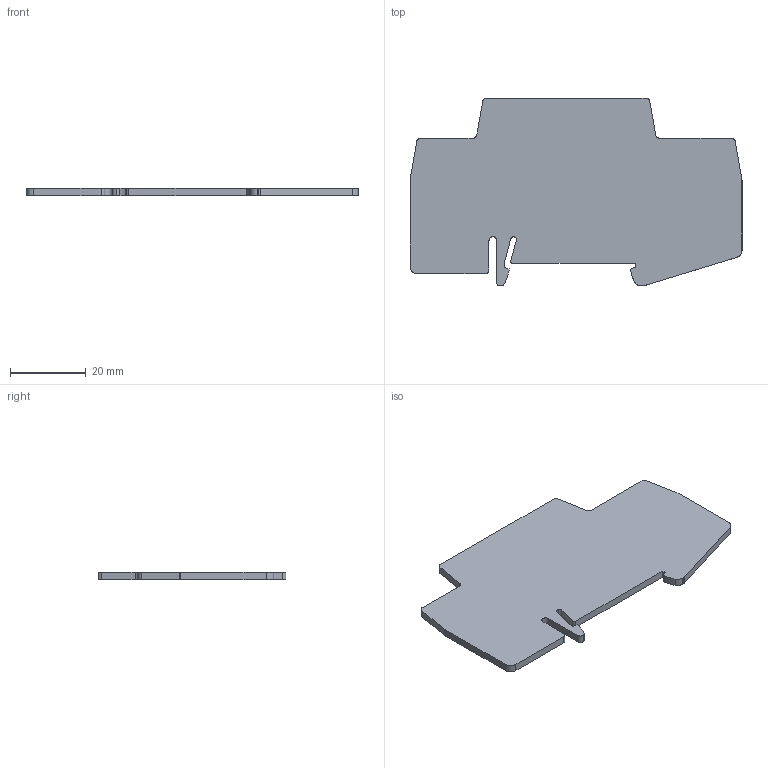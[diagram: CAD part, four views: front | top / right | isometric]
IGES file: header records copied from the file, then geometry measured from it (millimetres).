
Global section: file name: 3030747_atp_sttb4-select.igs; native system: OneSpace Designer 3D IGES; preprocessor: 12.01C  26-Mar-2004; date: 20041001.140135; units: millimetre
Bounding box: 87.65 x 49.6 x 2 mm (x, y, z)
Surface area: 7549.6 mm2 (no closed solid volume)
Topology: 0 solids, 0 shells, 49 faces, 432 edges, 432 vertices
Faces by surface type: bspline 49
